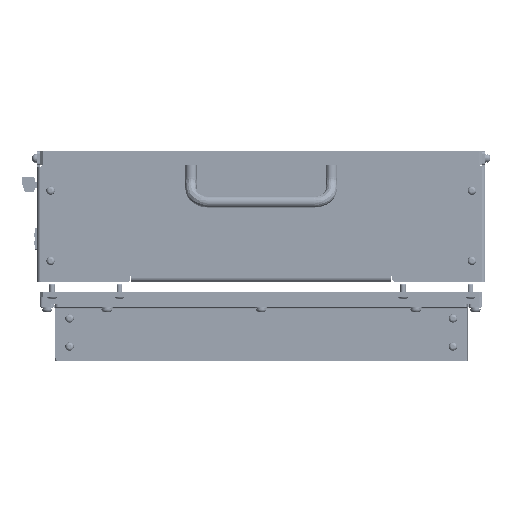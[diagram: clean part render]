
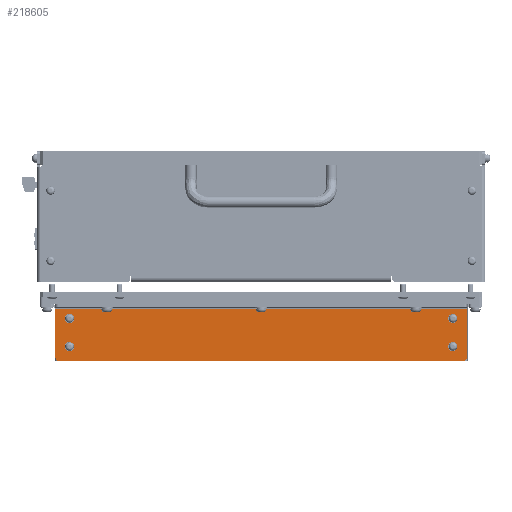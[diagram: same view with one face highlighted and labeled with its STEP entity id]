
A CAD part, left-side view. The second image highlights one B-rep face of the part: STEP entity #218605.
In plain terms, the highlighted planar face has unit normal (-1, 0, 0).
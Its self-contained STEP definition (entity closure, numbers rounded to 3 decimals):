
#5575 = AXIS2_PLACEMENT_3D ( 'NONE', #26232, #128655, #26929 ) ;
#6359 = DIRECTION ( 'NONE',  ( 0., -1., 0. ) ) ;
#6557 = ORIENTED_EDGE ( 'NONE', *, *, #109253, .F. ) ;
#7996 = CIRCLE ( 'NONE', #90534, 1.7 ) ;
#8140 = ORIENTED_EDGE ( 'NONE', *, *, #44566, .F. ) ;
#9843 = PLANE ( 'NONE',  #5575 ) ;
#12099 = VERTEX_POINT ( 'NONE', #127887 ) ;
#12604 = VECTOR ( 'NONE', #155912, 1000. ) ;
#13199 = CARTESIAN_POINT ( 'NONE',  ( -197., 134.8, -114. ) ) ;
#13741 = ORIENTED_EDGE ( 'NONE', *, *, #100418, .F. ) ;
#15452 = AXIS2_PLACEMENT_3D ( 'NONE', #15526, #134276, #32642 ) ;
#15526 = CARTESIAN_POINT ( 'NONE',  ( -197., 136.5, -134. ) ) ;
#16543 = CARTESIAN_POINT ( 'NONE',  ( -197., -144.5, -144. ) ) ;
#17238 = DIRECTION ( 'NONE',  ( -1., 0., 0. ) ) ;
#26232 = CARTESIAN_POINT ( 'NONE',  ( -197., 0., -124. ) ) ;
#26555 = DIRECTION ( 'NONE',  ( -1., 0., 0. ) ) ;
#26929 = DIRECTION ( 'NONE',  ( 0., -1., 0. ) ) ;
#28881 = CARTESIAN_POINT ( 'NONE',  ( -197., 144.5, -142. ) ) ;
#30862 = EDGE_LOOP ( 'NONE', ( #6557, #8140 ) ) ;
#32642 = DIRECTION ( 'NONE',  ( 0., 1., 0. ) ) ;
#33430 = DIRECTION ( 'NONE',  ( -1., 0., 0. ) ) ;
#35443 = ORIENTED_EDGE ( 'NONE', *, *, #120397, .F. ) ;
#35614 = CARTESIAN_POINT ( 'NONE',  ( -197., -136.5, -134. ) ) ;
#36438 = CIRCLE ( 'NONE', #194736, 2. ) ;
#37487 = AXIS2_PLACEMENT_3D ( 'NONE', #73912, #192660, #90937 ) ;
#40122 = FACE_BOUND ( 'NONE', #30862, .T. ) ;
#40404 = VERTEX_POINT ( 'NONE', #182587 ) ;
#44566 = EDGE_CURVE ( 'NONE', #40404, #101058, #134765, .T. ) ;
#45066 = ORIENTED_EDGE ( 'NONE', *, *, #51054, .T. ) ;
#45439 = FACE_BOUND ( 'NONE', #47094, .T. ) ;
#45977 = DIRECTION ( 'NONE',  ( 0., -1., 0. ) ) ;
#47094 = EDGE_LOOP ( 'NONE', ( #143044, #141835 ) ) ;
#48510 = ORIENTED_EDGE ( 'NONE', *, *, #141677, .T. ) ;
#50208 = CARTESIAN_POINT ( 'NONE',  ( -197., -146.5, -144. ) ) ;
#51054 = EDGE_CURVE ( 'NONE', #72355, #155082, #77898, .T. ) ;
#52074 = LINE ( 'NONE', #192814, #142349 ) ;
#52720 = DIRECTION ( 'NONE',  ( 0., 1., 0. ) ) ;
#55079 = CARTESIAN_POINT ( 'NONE',  ( -197., -134.8, -134. ) ) ;
#55102 = AXIS2_PLACEMENT_3D ( 'NONE', #118938, #17238, #136001 ) ;
#58020 = CIRCLE ( 'NONE', #67419, 1.7 ) ;
#59697 = EDGE_CURVE ( 'NONE', #110491, #160450, #36438, .T. ) ;
#61155 = CARTESIAN_POINT ( 'NONE',  ( -197., 138.2, -134. ) ) ;
#61336 = CARTESIAN_POINT ( 'NONE',  ( -197., -136.5, -114. ) ) ;
#66578 = DIRECTION ( 'NONE',  ( 0., -1., 0. ) ) ;
#66801 = VERTEX_POINT ( 'NONE', #61155 ) ;
#67419 = AXIS2_PLACEMENT_3D ( 'NONE', #135068, #33430, #152097 ) ;
#68230 = CARTESIAN_POINT ( 'NONE',  ( -197., 146.5, -142. ) ) ;
#71282 = EDGE_CURVE ( 'NONE', #66801, #76130, #81418, .T. ) ;
#72355 = VERTEX_POINT ( 'NONE', #16543 ) ;
#73912 = CARTESIAN_POINT ( 'NONE',  ( -197., 136.5, -134. ) ) ;
#74756 = ORIENTED_EDGE ( 'NONE', *, *, #204241, .F. ) ;
#75641 = ORIENTED_EDGE ( 'NONE', *, *, #205194, .F. ) ;
#76130 = VERTEX_POINT ( 'NONE', #205595 ) ;
#76750 = DIRECTION ( 'NONE',  ( 0., 1., 0. ) ) ;
#77898 = CIRCLE ( 'NONE', #205910, 2. ) ;
#78411 = DIRECTION ( 'NONE',  ( 0., 1., 0. ) ) ;
#78944 = DIRECTION ( 'NONE',  ( -1., 0., 0. ) ) ;
#79224 = CARTESIAN_POINT ( 'NONE',  ( -197., -136.5, -114. ) ) ;
#79986 = FACE_OUTER_BOUND ( 'NONE', #106728, .T. ) ;
#81418 = CIRCLE ( 'NONE', #15452, 1.7 ) ;
#84815 = CIRCLE ( 'NONE', #55102, 1.7 ) ;
#85663 = EDGE_LOOP ( 'NONE', ( #142569, #13741 ) ) ;
#87637 = CARTESIAN_POINT ( 'NONE',  ( -197., 136.5, -114. ) ) ;
#90534 = AXIS2_PLACEMENT_3D ( 'NONE', #35614, #154278, #52720 ) ;
#90937 = DIRECTION ( 'NONE',  ( 0., 1., 0. ) ) ;
#91375 = CIRCLE ( 'NONE', #37487, 1.7 ) ;
#96825 = VECTOR ( 'NONE', #66578, 1000. ) ;
#100418 = EDGE_CURVE ( 'NONE', #108869, #12099, #183320, .T. ) ;
#101058 = VERTEX_POINT ( 'NONE', #192831 ) ;
#101902 = LINE ( 'NONE', #116967, #186918 ) ;
#102953 = LINE ( 'NONE', #138886, #12604 ) ;
#104669 = DIRECTION ( 'NONE',  ( 0., 1., 0. ) ) ;
#106728 = EDGE_LOOP ( 'NONE', ( #122518, #45066, #124522, #35443, #48510, #199005 ) ) ;
#108869 = VERTEX_POINT ( 'NONE', #13199 ) ;
#109253 = EDGE_CURVE ( 'NONE', #101058, #40404, #189047, .T. ) ;
#110491 = VERTEX_POINT ( 'NONE', #68230 ) ;
#116967 = CARTESIAN_POINT ( 'NONE',  ( -197., -146.5, -104. ) ) ;
#118938 = CARTESIAN_POINT ( 'NONE',  ( -197., -136.5, -134. ) ) ;
#120397 = EDGE_CURVE ( 'NONE', #180584, #187072, #52074, .T. ) ;
#122518 = ORIENTED_EDGE ( 'NONE', *, *, #210146, .T. ) ;
#124522 = ORIENTED_EDGE ( 'NONE', *, *, #172765, .T. ) ;
#125029 = FACE_BOUND ( 'NONE', #85663, .T. ) ;
#127315 = AXIS2_PLACEMENT_3D ( 'NONE', #61336, #180008, #78411 ) ;
#127887 = CARTESIAN_POINT ( 'NONE',  ( -197., 138.2, -114. ) ) ;
#128250 = CARTESIAN_POINT ( 'NONE',  ( -197., -144.5, -142. ) ) ;
#128473 = CARTESIAN_POINT ( 'NONE',  ( -197., 144.5, -144. ) ) ;
#128655 = DIRECTION ( 'NONE',  ( 1., 0., 0. ) ) ;
#128924 = EDGE_CURVE ( 'NONE', #76130, #66801, #91375, .T. ) ;
#130896 = VERTEX_POINT ( 'NONE', #55079 ) ;
#134276 = DIRECTION ( 'NONE',  ( -1., 0., 0. ) ) ;
#134765 = CIRCLE ( 'NONE', #176583, 1.7 ) ;
#135068 = CARTESIAN_POINT ( 'NONE',  ( -197., 136.5, -114. ) ) ;
#135844 = CARTESIAN_POINT ( 'NONE',  ( -197., -138.2, -134. ) ) ;
#136001 = DIRECTION ( 'NONE',  ( 0., 1., 0. ) ) ;
#138886 = CARTESIAN_POINT ( 'NONE',  ( -197., 146.5, -104. ) ) ;
#141677 = EDGE_CURVE ( 'NONE', #180584, #110491, #102953, .T. ) ;
#141835 = ORIENTED_EDGE ( 'NONE', *, *, #128924, .F. ) ;
#142349 = VECTOR ( 'NONE', #6359, 1000. ) ;
#142569 = ORIENTED_EDGE ( 'NONE', *, *, #151219, .F. ) ;
#143044 = ORIENTED_EDGE ( 'NONE', *, *, #71282, .F. ) ;
#145338 = DIRECTION ( 'NONE',  ( 0., -1., 0. ) ) ;
#147632 = DIRECTION ( 'NONE',  ( -1., 0., 0. ) ) ;
#147735 = CARTESIAN_POINT ( 'NONE',  ( -197., -146.5, -107. ) ) ;
#151219 = EDGE_CURVE ( 'NONE', #12099, #108869, #58020, .T. ) ;
#152097 = DIRECTION ( 'NONE',  ( 0., 1., 0. ) ) ;
#154278 = DIRECTION ( 'NONE',  ( -1., 0., 0. ) ) ;
#155082 = VERTEX_POINT ( 'NONE', #161550 ) ;
#155912 = DIRECTION ( 'NONE',  ( 0., 0., -1. ) ) ;
#160450 = VERTEX_POINT ( 'NONE', #128473 ) ;
#161550 = CARTESIAN_POINT ( 'NONE',  ( -197., -146.5, -142. ) ) ;
#166931 = VERTEX_POINT ( 'NONE', #135844 ) ;
#170151 = FACE_BOUND ( 'NONE', #205157, .T. ) ;
#172765 = EDGE_CURVE ( 'NONE', #155082, #187072, #101902, .T. ) ;
#173685 = CARTESIAN_POINT ( 'NONE',  ( -197., 146.5, -107. ) ) ;
#176583 = AXIS2_PLACEMENT_3D ( 'NONE', #79224, #78944, #76750 ) ;
#180008 = DIRECTION ( 'NONE',  ( -1., 0., 0. ) ) ;
#180584 = VERTEX_POINT ( 'NONE', #173685 ) ;
#182587 = CARTESIAN_POINT ( 'NONE',  ( -197., -138.2, -114. ) ) ;
#183320 = CIRCLE ( 'NONE', #211623, 1.7 ) ;
#184573 = DIRECTION ( 'NONE',  ( 0., 0., 1. ) ) ;
#186918 = VECTOR ( 'NONE', #184573, 1000. ) ;
#187072 = VERTEX_POINT ( 'NONE', #147735 ) ;
#187098 = LINE ( 'NONE', #50208, #96825 ) ;
#189047 = CIRCLE ( 'NONE', #127315, 1.7 ) ;
#192660 = DIRECTION ( 'NONE',  ( -1., 0., 0. ) ) ;
#192814 = CARTESIAN_POINT ( 'NONE',  ( -197., 146.5, -107. ) ) ;
#192831 = CARTESIAN_POINT ( 'NONE',  ( -197., -134.8, -114. ) ) ;
#194736 = AXIS2_PLACEMENT_3D ( 'NONE', #28881, #147632, #45977 ) ;
#199005 = ORIENTED_EDGE ( 'NONE', *, *, #59697, .T. ) ;
#204241 = EDGE_CURVE ( 'NONE', #130896, #166931, #7996, .T. ) ;
#205157 = EDGE_LOOP ( 'NONE', ( #74756, #75641 ) ) ;
#205194 = EDGE_CURVE ( 'NONE', #166931, #130896, #84815, .T. ) ;
#205595 = CARTESIAN_POINT ( 'NONE',  ( -197., 134.8, -134. ) ) ;
#205910 = AXIS2_PLACEMENT_3D ( 'NONE', #128250, #26555, #145338 ) ;
#206397 = DIRECTION ( 'NONE',  ( -1., 0., 0. ) ) ;
#210146 = EDGE_CURVE ( 'NONE', #160450, #72355, #187098, .T. ) ;
#211623 = AXIS2_PLACEMENT_3D ( 'NONE', #87637, #206397, #104669 ) ;
#218605 = ADVANCED_FACE ( 'NONE', ( #170151, #40122, #45439, #125029, #79986 ), #9843, .F. ) ;
